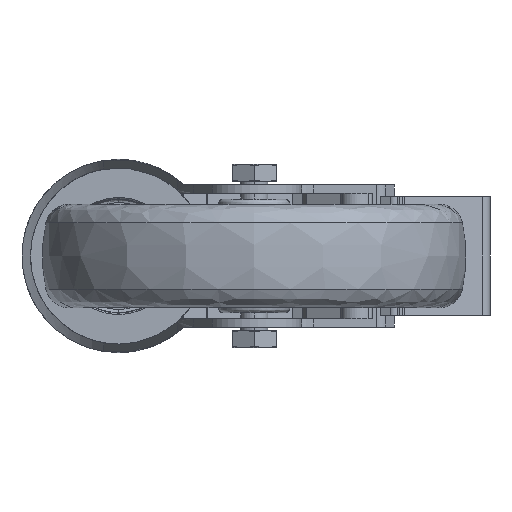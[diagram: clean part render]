
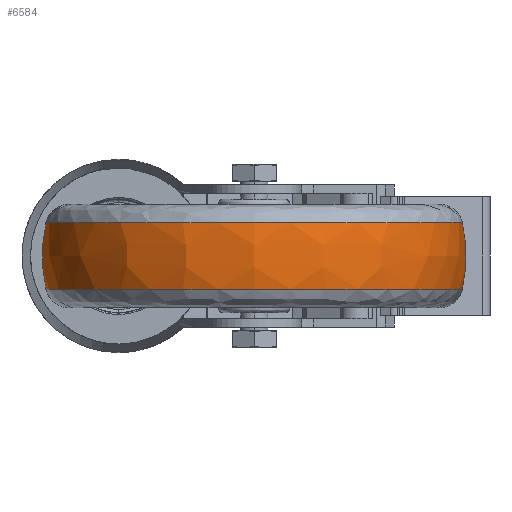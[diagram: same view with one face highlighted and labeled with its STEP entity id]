
A CAD part, front view. The second image highlights one B-rep face of the part: STEP entity #6584.
In plain terms, the highlighted free-form (B-spline) face has degree [3, 3] with [4, 4] control points.
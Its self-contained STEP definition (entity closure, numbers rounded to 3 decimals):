
#54 = CARTESIAN_POINT ( 'NONE',  ( -61.428, 0., -9.763 ) ) ;
#592 = EDGE_CURVE ( 'NONE', #1649, #4153, #6647, .T. ) ;
#669 = CARTESIAN_POINT ( 'NONE',  ( 61.427, 0., 9.77 ) ) ;
#701 = CARTESIAN_POINT ( 'NONE',  ( -61.428, 0., -9.763 ) ) ;
#840 = CIRCLE ( 'NONE', #4654, 45. ) ;
#1352 = CARTESIAN_POINT ( 'NONE',  ( 0., 0., -9.763 ) ) ;
#1554 = CARTESIAN_POINT ( 'NONE',  ( -62.864, 0., -3.305 ) ) ;
#1649 = VERTEX_POINT ( 'NONE', #701 ) ;
#1660 = CARTESIAN_POINT ( 'NONE',  ( 62.864, 0., -3.305 ) ) ;
#1712 = CARTESIAN_POINT ( 'NONE',  ( -62.863, -125.726, 3.311 ) ) ;
#1743 = CARTESIAN_POINT ( 'NONE',  ( 0., 0., 9.77 ) ) ;
#1761 = ORIENTED_EDGE ( 'NONE', *, *, #592, .T. ) ;
#2289 = CARTESIAN_POINT ( 'NONE',  ( -62.864, -125.727, -3.305 ) ) ;
#2581 = CARTESIAN_POINT ( 'NONE',  ( 17.5, 0., 0. ) ) ;
#2770 = DIRECTION ( 'NONE',  ( 0., 1., 0. ) ) ;
#2866 = EDGE_CURVE ( 'NONE', #4153, #6590, #840, .T. ) ;
#2927 = DIRECTION ( 'NONE',  ( 0., 0., 1. ) ) ;
#3008 = ORIENTED_EDGE ( 'NONE', *, *, #4758, .F. ) ;
#3221 = CARTESIAN_POINT ( 'NONE',  ( 62.863, -125.726, 3.311 ) ) ;
#3408 = CIRCLE ( 'NONE', #6086, 61.427 ) ;
#3579 = CARTESIAN_POINT ( 'NONE',  ( 61.428, 0., -9.763 ) ) ;
#3843 = CARTESIAN_POINT ( 'NONE',  ( 61.428, 0., -9.763 ) ) ;
#3895 = CARTESIAN_POINT ( 'NONE',  ( 61.427, -122.853, 9.77 ) ) ;
#4153 = VERTEX_POINT ( 'NONE', #3579 ) ;
#4193 = DIRECTION ( 'NONE',  ( 1., 0., 0. ) ) ;
#4654 = AXIS2_PLACEMENT_3D ( 'NONE', #2581, #6658, #4193 ) ;
#4758 = EDGE_CURVE ( 'NONE', #7210, #6590, #3408, .T. ) ;
#4781 = CARTESIAN_POINT ( 'NONE',  ( -62.863, 0., 3.311 ) ) ;
#4826 = CARTESIAN_POINT ( 'NONE',  ( 61.428, -122.856, -9.763 ) ) ;
#4911 = DIRECTION ( 'NONE',  ( 0., 0., 1. ) ) ;
#5451 = CARTESIAN_POINT ( 'NONE',  ( 61.427, 0., 9.77 ) ) ;
#5492 = AXIS2_PLACEMENT_3D ( 'NONE', #1352, #2927, #6089 ) ;
#6086 = AXIS2_PLACEMENT_3D ( 'NONE', #1743, #4911, #8900 ) ;
#6089 = DIRECTION ( 'NONE',  ( -1., 0., 0. ) ) ;
#6125 = EDGE_LOOP ( 'NONE', ( #1761, #8246, #3008, #6326 ) ) ;
#6326 = ORIENTED_EDGE ( 'NONE', *, *, #7427, .F. ) ;
#6333 = CIRCLE ( 'NONE', #9815, 45. ) ;
#6393 = CARTESIAN_POINT ( 'NONE',  ( -61.427, 0., 9.77 ) ) ;
#6584 = ADVANCED_FACE ( 'NONE', ( #9384 ), #7474, .T. ) ;
#6590 = VERTEX_POINT ( 'NONE', #669 ) ;
#6647 = CIRCLE ( 'NONE', #5492, 61.428 ) ;
#6658 = DIRECTION ( 'NONE',  ( 0., -1., 0. ) ) ;
#6692 = CARTESIAN_POINT ( 'NONE',  ( -17.5, 0., 0. ) ) ;
#7157 = CARTESIAN_POINT ( 'NONE',  ( -61.427, 0., 9.77 ) ) ;
#7210 = VERTEX_POINT ( 'NONE', #6393 ) ;
#7369 = DIRECTION ( 'NONE',  ( -1., 0., 0. ) ) ;
#7427 = EDGE_CURVE ( 'NONE', #1649, #7210, #6333, .T. ) ;
#7474 =( BOUNDED_SURFACE ( )  B_SPLINE_SURFACE ( 3, 3, ( 
 ( #3843, #4826, #8661, #54 ),
 ( #1660, #7982, #2289, #1554 ),
 ( #8816, #3221, #1712, #4781 ),
 ( #5451, #3895, #9436, #7157 ) ),
 .UNSPECIFIED., .F., .F., .T. ) 
 B_SPLINE_SURFACE_WITH_KNOTS ( ( 4, 4 ),
 ( 4, 4 ),
 ( 0., 1. ),
 ( 0., 1. ),
 .UNSPECIFIED. ) 
 GEOMETRIC_REPRESENTATION_ITEM ( )  RATIONAL_B_SPLINE_SURFACE ( (
 ( 1., 0.333, 0.333, 1.),
 ( 0.984, 0.328, 0.328, 0.984),
 ( 0.984, 0.328, 0.328, 0.984),
 ( 1., 0.333, 0.333, 1.) ) ) 
 REPRESENTATION_ITEM ( '' )  SURFACE ( )  );
#7982 = CARTESIAN_POINT ( 'NONE',  ( 62.864, -125.727, -3.305 ) ) ;
#8246 = ORIENTED_EDGE ( 'NONE', *, *, #2866, .T. ) ;
#8661 = CARTESIAN_POINT ( 'NONE',  ( -61.428, -122.856, -9.763 ) ) ;
#8816 = CARTESIAN_POINT ( 'NONE',  ( 62.863, 0., 3.311 ) ) ;
#8900 = DIRECTION ( 'NONE',  ( -1., 0., 0. ) ) ;
#9384 = FACE_OUTER_BOUND ( 'NONE', #6125, .T. ) ;
#9436 = CARTESIAN_POINT ( 'NONE',  ( -61.427, -122.853, 9.77 ) ) ;
#9815 = AXIS2_PLACEMENT_3D ( 'NONE', #6692, #2770, #7369 ) ;
